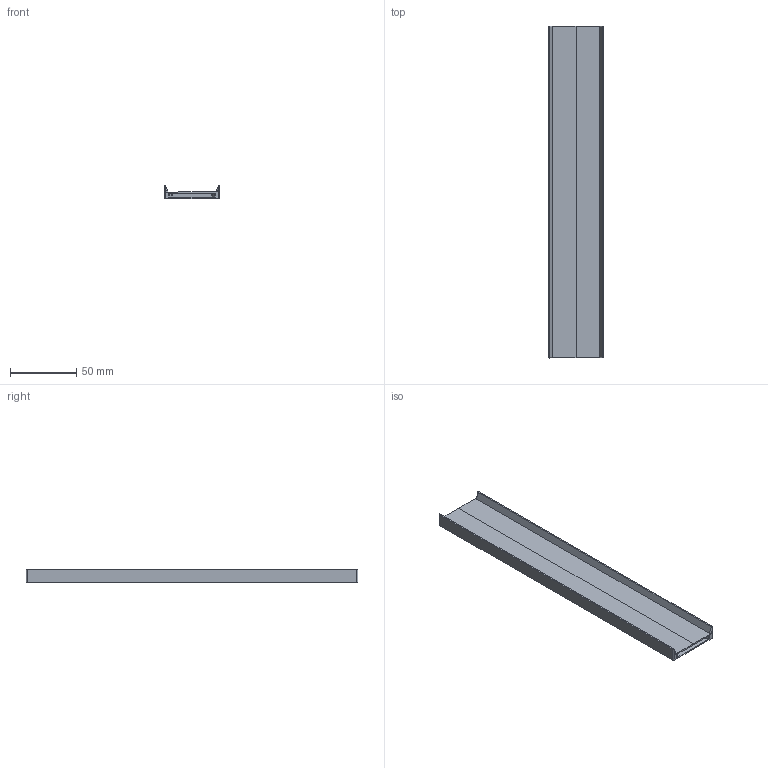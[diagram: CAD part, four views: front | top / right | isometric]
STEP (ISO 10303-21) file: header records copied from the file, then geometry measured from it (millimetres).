
FILE_DESCRIPTION(/* description */ (''),/* implementation_level */ '2;1');
FILE_NAME(/* name */ 'Hotwheels track Straight 250.step',/* time_stamp */ '2024-05-06T21:40:27+02:00',/* author */ (''),/* organization */ (''),/* preprocessor_version */ 'ST-DEVELOPER v20',/* originating_system */ 'Autodesk Translation Framework v12.20.1.177',/* authorisation */ '');
FILE_SCHEMA (('AUTOMOTIVE_DESIGN { 1 0 10303 214 3 1 1 }'));
Length unit declared in the file: millimetre
Products named in the file (1): Hotwheels track
Bounding box: 42 x 250 x 10 mm (x, y, z)
Volume: 55497.5 mm3; surface area: 29584.5 mm2
Topology: 1 solids, 1 shells, 50 faces, 138 edges, 92 vertices
Faces by surface type: plane 26, cylinder 24
Entity records: 1647 total; most frequent: DIRECTION 292, CARTESIAN_POINT 281, ORIENTED_EDGE 276, EDGE_CURVE 138, AXIS2_PLACEMENT_3D 103, VERTEX_POINT 92, LINE 86, VECTOR 86
